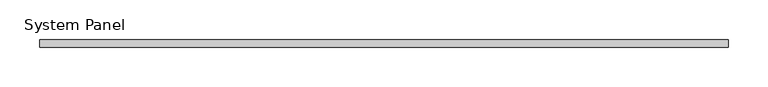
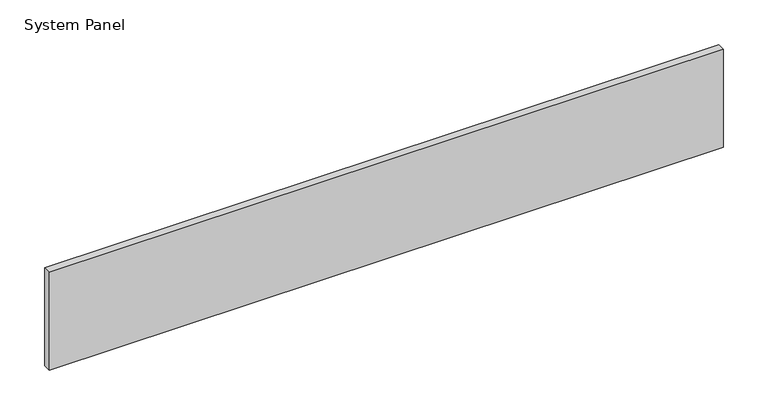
"""IFC4 building model written with IfcOpenShell, lengths in millimetres: plate geometry, System Panel : VACÍO."""

from ifc_helpers import new_model, si_unit, origin, origin_with_axes, place, context, project, spatial, polyline, outline, extrude, source, transform, mapped, element, save


def system_panel_103f76b4(model_context):
    return source(origin(), model_context, "Body", "SweptSolid", [
        extrude(outline(polyline([(436.0218271, -5.0), (-436.0218271, -5.0), (-436.0218271, 5.0), (436.0218271, 5.0), (436.0218271, -5.0)])), origin_with_axes(), (0.0, 0.0, 1.0), 134.0),
    ])


if __name__ == "__main__":
    model = new_model("IFC4")
    model_context = context("Model", 3, world=origin())
    ifc_project = project(units=[si_unit("LENGTHUNIT", "METRE", prefix="MILLI")], contexts=[model_context])
    site = spatial("IfcSite", under=ifc_project)
    building = spatial("IfcBuilding", under=site)
    placement = place(None, origin())
    system_panel_shape = system_panel_103f76b4(model_context)
    element("IfcPlate", 1, ObjectType="System Panel : VACÍO", at=placement, inside=building, context=model_context, shape_type="MappedRepresentation", body=[
        mapped(system_panel_shape, transform((0.0, 0.0, 0.0), x_axis=(1.0, 0.0, 0.0), y_axis=(0.0, 1.0, 0.0), z_axis=(0.0, 0.0, 1.0))),
    ])
    save(model, "model.ifc")
